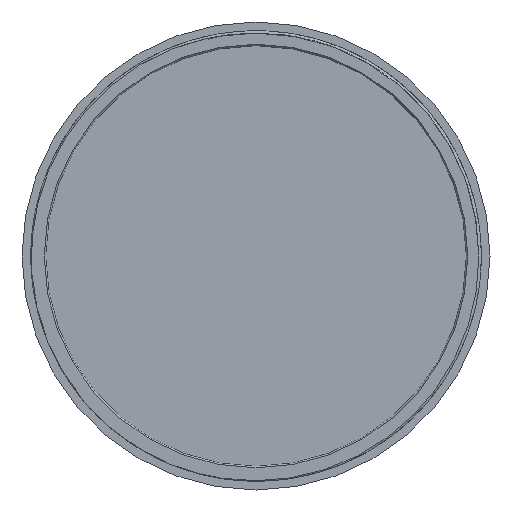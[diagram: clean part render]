
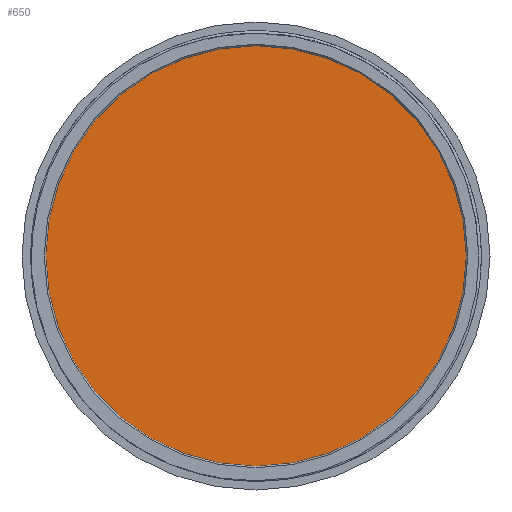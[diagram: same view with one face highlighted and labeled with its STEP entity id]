
A CAD part, front view. The second image highlights one B-rep face of the part: STEP entity #650.
In plain terms, the highlighted planar face has unit normal (0, -1, 0).
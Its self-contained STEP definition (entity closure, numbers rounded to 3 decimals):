
#17 = CARTESIAN_POINT ( 'NONE',  ( 0., 2.5, -36.7 ) ) ;
#124 = ORIENTED_EDGE ( 'NONE', *, *, #1904, .F. ) ;
#177 = EDGE_LOOP ( 'NONE', ( #2234, #124 ) ) ;
#214 = PLANE ( 'NONE',  #1607 ) ;
#293 = CIRCLE ( 'NONE', #2466, 36.7 ) ;
#475 = VERTEX_POINT ( 'NONE', #494 ) ;
#494 = CARTESIAN_POINT ( 'NONE',  ( 0., 2.5, 36.7 ) ) ;
#650 = ADVANCED_FACE ( 'NONE', ( #2678 ), #214, .F. ) ;
#699 = DIRECTION ( 'NONE',  ( 0., 1., 0. ) ) ;
#717 = VERTEX_POINT ( 'NONE', #17 ) ;
#1119 = DIRECTION ( 'NONE',  ( 0., 0., 1. ) ) ;
#1326 = DIRECTION ( 'NONE',  ( 0., 1., 0. ) ) ;
#1565 = CARTESIAN_POINT ( 'NONE',  ( 0., 2.5, 0. ) ) ;
#1607 = AXIS2_PLACEMENT_3D ( 'NONE', #2437, #1326, #1119 ) ;
#1904 = EDGE_CURVE ( 'NONE', #475, #717, #2846, .T. ) ;
#2080 = AXIS2_PLACEMENT_3D ( 'NONE', #2916, #2883, #2708 ) ;
#2234 = ORIENTED_EDGE ( 'NONE', *, *, #2691, .F. ) ;
#2290 = DIRECTION ( 'NONE',  ( 0., 0., 1. ) ) ;
#2437 = CARTESIAN_POINT ( 'NONE',  ( 0., 2.5, 0. ) ) ;
#2466 = AXIS2_PLACEMENT_3D ( 'NONE', #1565, #699, #2290 ) ;
#2678 = FACE_OUTER_BOUND ( 'NONE', #177, .T. ) ;
#2691 = EDGE_CURVE ( 'NONE', #717, #475, #293, .T. ) ;
#2708 = DIRECTION ( 'NONE',  ( 0., 0., 1. ) ) ;
#2846 = CIRCLE ( 'NONE', #2080, 36.7 ) ;
#2883 = DIRECTION ( 'NONE',  ( 0., 1., 0. ) ) ;
#2916 = CARTESIAN_POINT ( 'NONE',  ( 0., 2.5, 0. ) ) ;
